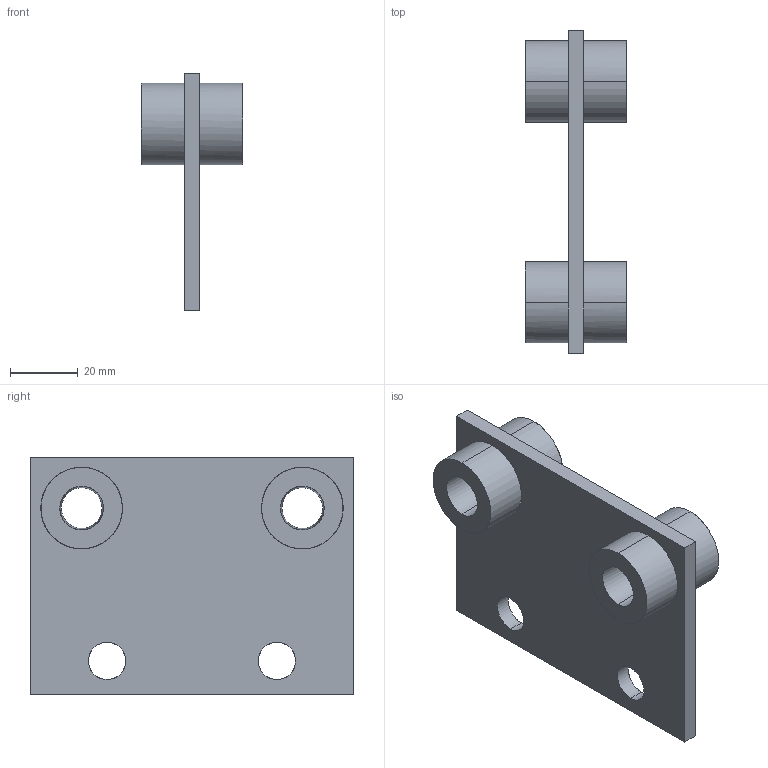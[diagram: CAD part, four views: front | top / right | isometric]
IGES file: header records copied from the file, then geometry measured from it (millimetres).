
Global section: file name: E:\UnigraphicsGraphicData\MISUMI_PRESS-PARTS\IGES\3d_dahk-a_03680_r00.igs; native system: NX V5.0; preprocessor: UGS NX IGES V5.0; author: MISUMI; date: 20110105.160523; units: millimetre
Bounding box: 30 x 95 x 70 mm (x, y, z)
Surface area: 20367.5 mm2 (no closed solid volume)
Topology: 0 solids, 0 shells, 34 faces, 250 edges, 250 vertices
Faces by surface type: bspline 34
